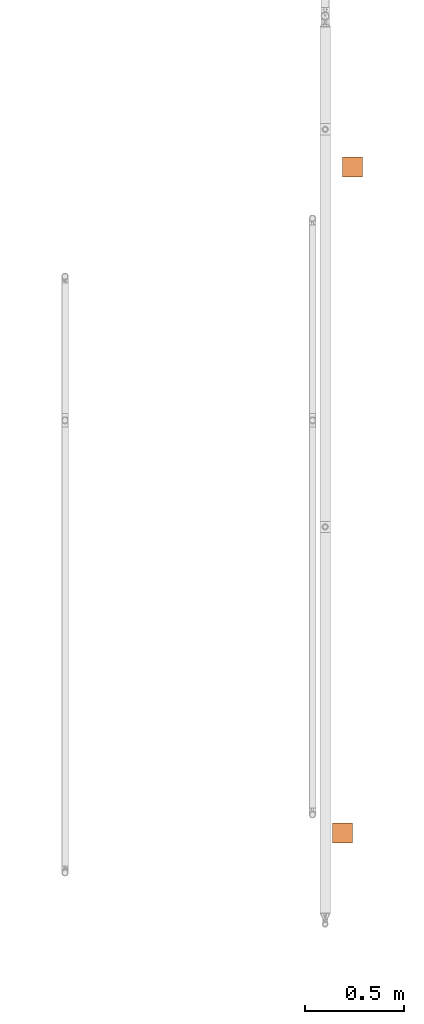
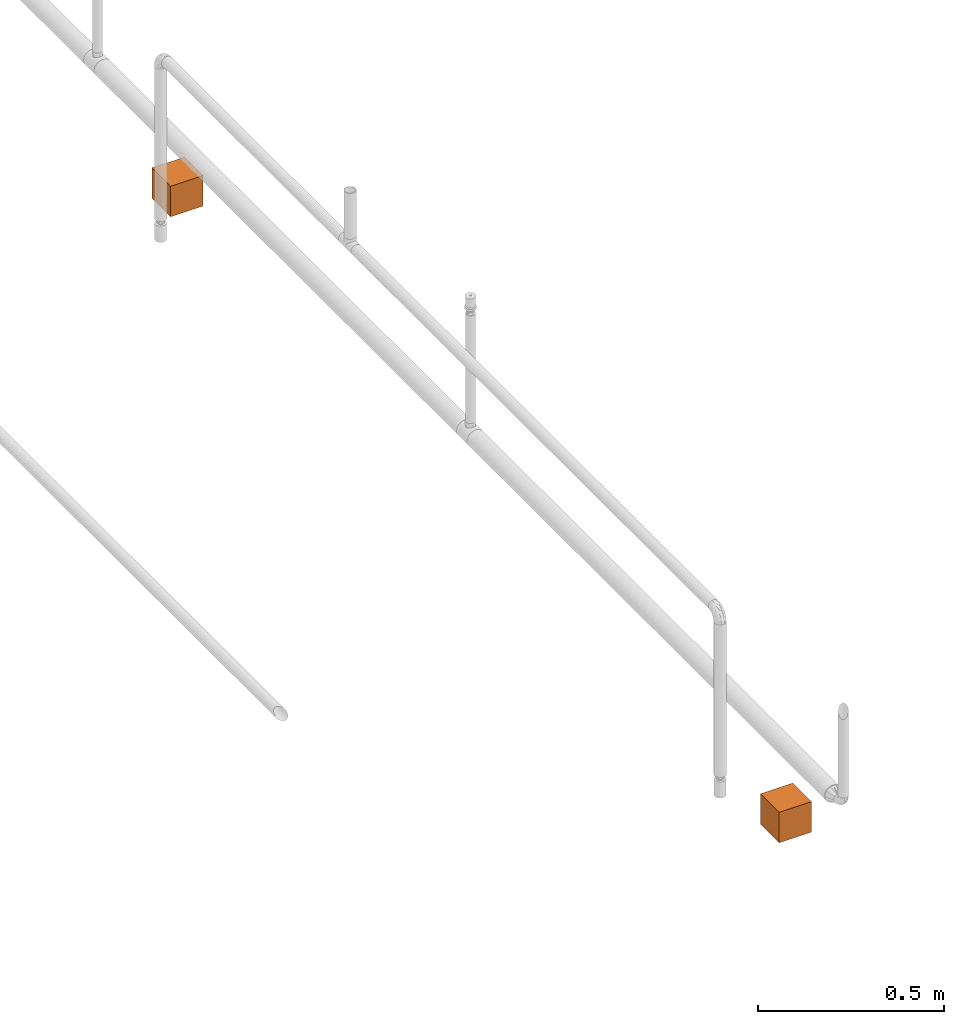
# One storey, part 95 of 95: 2 proxies.
"""IFC2X3 building model written with IfcOpenShell, lengths in millimetres."""

from ifc_helpers import new_model, entity, si_unit, converted_unit, derived_unit, direction, frame, origin_with_axes, origin_2d_with_axis, place, context, subcontext, project, spatial, rectangle, extrude, source, transform, mapped, element, save


model = new_model("IFC2X3")

# Units and contexts
model_context = context("Model", 3, precision=0.01, world=frame((0.0, 4.29681676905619e-09, 0.0)), true_north=direction((4.01073788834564e-13, 1.0)))
plan_context = context("Plan", 3, precision=0.01, world=frame((0.0, 4.29681676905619e-09, 0.0)), true_north=direction((4.01073788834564e-13, 1.0)))
body_context = subcontext(model_context, "Body", "Model", "MODEL_VIEW")
ifc_project = project(units=[converted_unit("PLANEANGLEUNIT", "DEGREE", entity("IfcPositiveLengthMeasure", 0.0174532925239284), si_unit("PLANEANGLEUNIT", "RADIAN"), dimensions=[0, 0, 0, 0, 0, 0, 0]), si_unit("AREAUNIT", "SQUARE_METRE"), si_unit("LENGTHUNIT", "METRE", prefix="MILLI"), si_unit("MASSUNIT", "GRAM", prefix="KILO"), si_unit("POWERUNIT", "WATT"), si_unit("PRESSUREUNIT", "PASCAL"), si_unit("FORCEUNIT", "NEWTON", prefix="KILO"), si_unit("ELECTRICVOLTAGEUNIT", "VOLT"), si_unit("ELECTRICCURRENTUNIT", "AMPERE"), si_unit("THERMODYNAMICTEMPERATUREUNIT", "DEGREE_CELSIUS"), si_unit("TIMEUNIT", "SECOND"), si_unit("VOLUMEUNIT", "CUBIC_METRE"), derived_unit("LINEARVELOCITYUNIT", [(si_unit("LENGTHUNIT", "METRE"), 1), (si_unit("TIMEUNIT", "SECOND"), -1)]), derived_unit("VOLUMETRICFLOWRATEUNIT", [(si_unit("VOLUMEUNIT", "CUBIC_METRE"), 1), (si_unit("TIMEUNIT", "SECOND"), -1)]), derived_unit("THERMALTRANSMITTANCEUNIT", [(si_unit("POWERUNIT", "WATT"), 1), (si_unit("THERMODYNAMICTEMPERATUREUNIT", "KELVIN"), -1), (si_unit("AREAUNIT", "SQUARE_METRE"), -1)]), derived_unit("SOUNDPRESSUREUNIT", [(si_unit("PRESSUREUNIT", "PASCAL"), 1)])], contexts=[model_context, plan_context])

# Site, building, storey
site_placement = place(None, frame((0.0, -4.29681676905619e-09, 0.0), z_axis=(0.0, 0.0, 1.0), x_axis=(1.0, 0.0, 0.0)))
site = spatial("IfcSite", under=ifc_project, at=site_placement, CompositionType="ELEMENT")
building_placement = place(site_placement, frame((0.0, 4.29681676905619e-09, 0.0), z_axis=(0.0, 0.0, 1.0), x_axis=(1.0, 0.0, 0.0)))
building = spatial("IfcBuilding", under=site, at=building_placement, Name="mc-building", CompositionType="ELEMENT")
storey_placement = place(building_placement, frame((0.0, 0.0, 210900.0), z_axis=(0.0, 0.0, 1.0), x_axis=(1.0, 0.0, 0.0)))
storey = spatial("IfcBuildingStorey", under=building, at=storey_placement, Name="Nivå F", CompositionType="ELEMENT", Elevation=210900.0)

# Proxies
shared_shape = source(origin_with_axes(), body_context, "Body", "SweptSolid", [
    extrude(rectangle(XDim=100.0, YDim=100.0, at=origin_2d_with_axis()), frame((0.0, 0.0, 0.0), z_axis=(1.0, 0.0, 0.0), x_axis=(0.0, 1.0, 0.0)), (0.0, 0.0, 1.0), 100.0),
])
for number, where, z_axis, x_axis in (
    (1, (536099.76599, 444116.12918, 3650.0), (0.0, 0.0, 1.0), (-1.0, 0.0, 0.0)),
    (2, (536099.76599, 447516.12918, 3650.0), (0.0, 0.0, 1.0), (0.0, -1.0, 0.0)),
):
    element("IfcBuildingElementProxy", number, at=place(storey_placement, frame(where, z_axis=z_axis, x_axis=x_axis)), inside=storey, Name="MagiCAD_Sprinkler_Design_Area", context=body_context, shape_type="MappedRepresentation", body=[
        mapped(shared_shape, transform((0.0, 0.0, 0.0), scale=1.0)),
    ])

save(model, "model.ifc")
